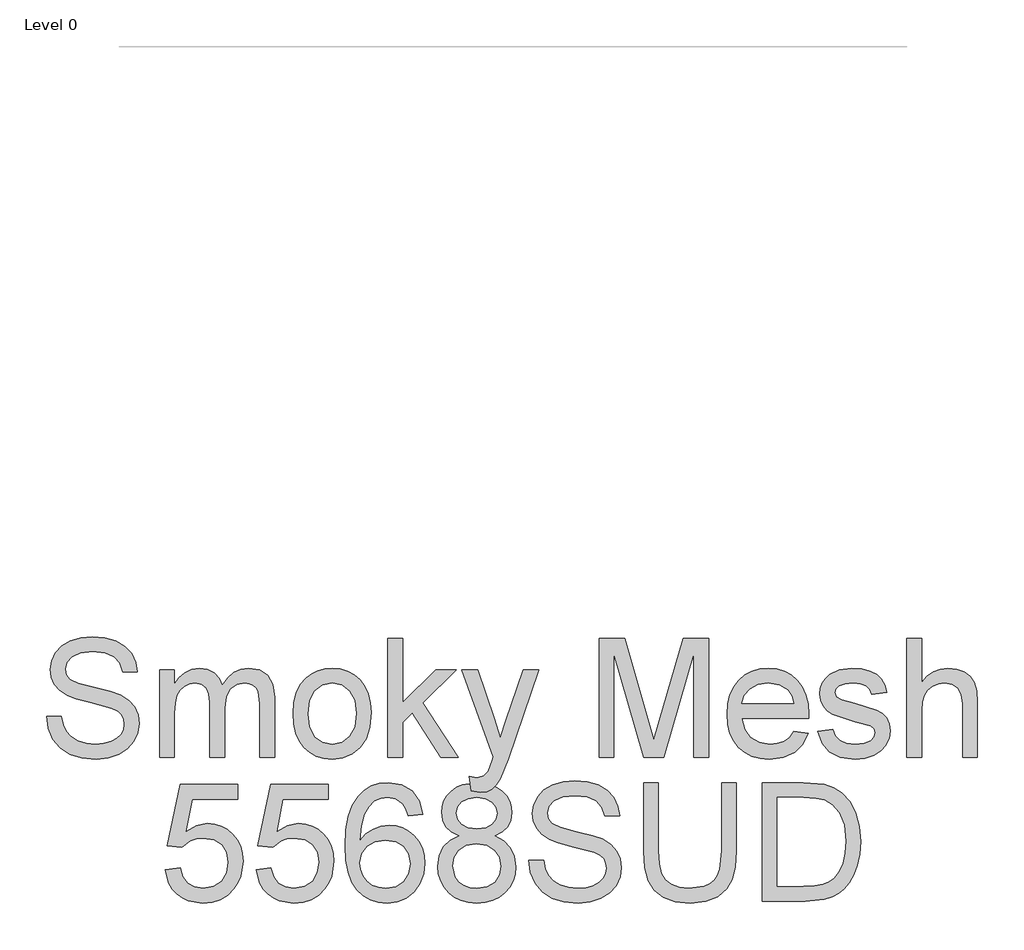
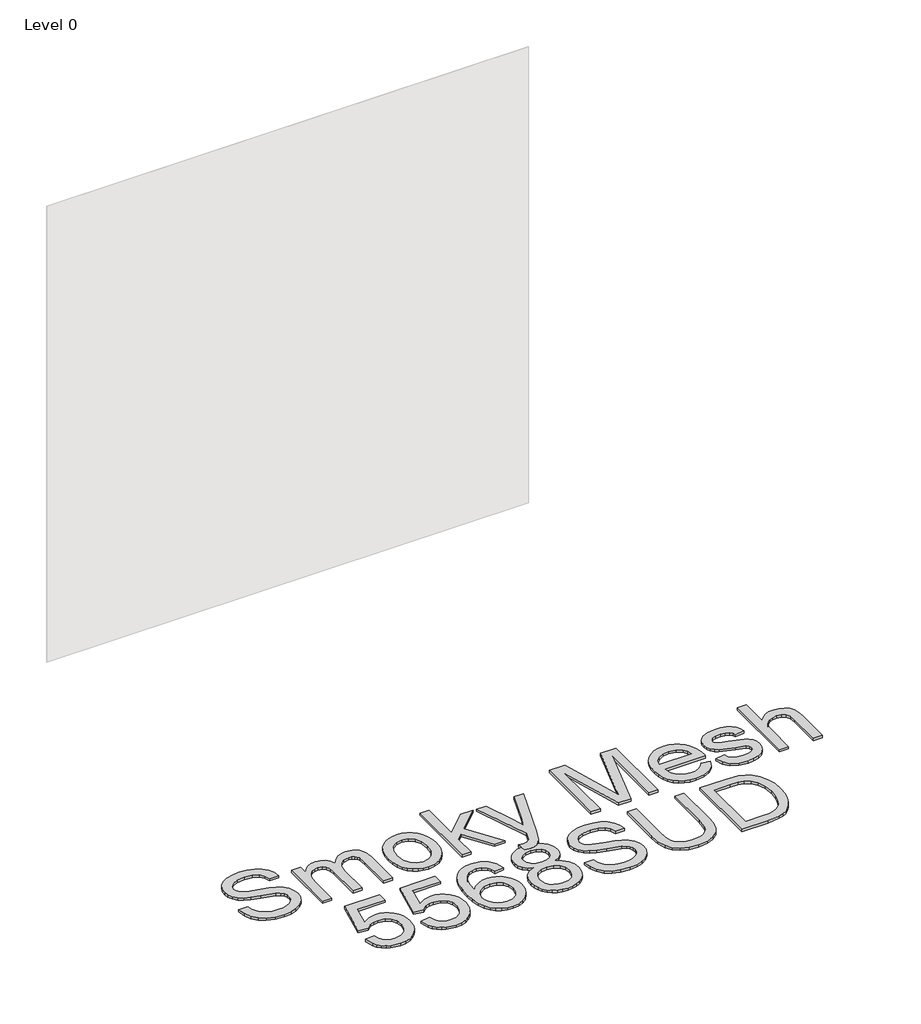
# One storey, part 19 of 29: 1 proxy.
"""IFC4 building model written with IfcOpenShell, lengths in millimetres."""

from ifc_helpers import new_model, si_unit, origin, origin_with_axes, place, context, project, spatial, polyline, outline, extrude, element, save

model = new_model("IFC4")

# Units and contexts
model_context = context("Model", 3, world=origin())
ifc_project = project(units=[si_unit("LENGTHUNIT", "METRE", prefix="MILLI")], contexts=[model_context])

# Site, building, storey
site = spatial("IfcSite", under=ifc_project)
building = spatial("IfcBuilding", under=site)
storey = spatial("IfcBuildingStorey", under=building, Name="Level 0", Elevation=0.0)

# Proxy
placement = place(None, origin())
element("IfcBuildingElementProxy", 1, Name="300mm Arial", ObjectType="300mm Arial", at=placement, inside=storey, context=model_context, shape_type="SweptSolid", body=[
    extrude(outline(polyline([(4365.0562248, -11909.2649241), (4402.7273411, -11909.2649241), (4407.0499546, -11930.1698185), (4414.867447, -11946.9728286), (4427.0627351, -11960.308551), (4444.5187358, -11970.8115819), (4465.8558915, -11977.6265959), (4489.6946448, -11979.8982672), (4510.6823126, -11978.1784189), (4529.0580183, -11973.0188739), (4543.948042, -11964.8518936), (4554.4786641, -11954.1097394), (4560.7418551, -11941.7764955), (4562.8295854, -11928.8362463), (4561.2660869, -11916.2270909), (4556.5755915, -11905.3285868), (4547.0474478, -11896.0303694), (4530.9710046, -11888.222074), (4476.1197992, -11873.837888), (4440.1133489, -11864.3189414), (4417.0747389, -11855.2598472), (4398.3219542, -11842.5863125), (4385.0322172, -11827.2272392), (4377.1135572, -11809.5137211), (4374.4740039, -11789.7768521), (4377.7389566, -11767.7131294), (4387.5338147, -11747.1393289), (4403.6010609, -11729.7017223), (4425.6831776, -11717.0465817), (4452.1890754, -11709.3486509), (4481.5276645, -11706.782674), (4513.3126689, -11709.4682126), (4541.1245477, -11717.5248283), (4563.9700196, -11730.7869742), (4580.8558032, -11749.0891034), (4591.5427752, -11771.2907818), (4595.7918122, -11796.2515752), (4558.1206959, -11796.2515752), (4551.2045144, -11773.7739853), (4536.7835402, -11757.5503893), (4514.250768, -11747.7279401), (4482.9991925, -11744.4537903), (4451.011853, -11747.6911519), (4429.067692, -11757.4032365), (4416.3757631, -11771.695452), (4412.1451202, -11788.6732061), (4415.1433585, -11803.1493626), (4424.1380732, -11814.7928278), (4445.4016526, -11825.2038882), (4485.6479428, -11835.8356779), (4527.1818201, -11845.9340387), (4552.3081604, -11854.7448125), (4573.7832718, -11868.4116286), (4588.7652661, -11885.2790181), (4597.5668428, -11905.1630399), (4600.5007017, -11927.8797531), (4597.1253844, -11951.102304), (4586.9994325, -11972.9452975), (4570.5367132, -11991.7440675), (4548.1510938, -12005.8339479), (4521.2313288, -12014.6355246), (4491.1661728, -12017.5693835), (4454.2584116, -12014.4055984), (4423.8805558, -12004.9142429), (4399.6831176, -11989.0585289), (4381.316609, -11966.8016682), (4369.5259911, -11939.6887651), (4365.0562248, -11909.2649241)])), origin_with_axes(), (0.0, 0.0, 1.0), 10.0),
    extrude(outline(polyline([(4652.2984867, -12012.860494), (4652.2984867, -11791.5426857), (4689.969603, -11791.5426857), (4689.969603, -11827.9630032), (4701.3003684, -11811.2335695), (4715.8684954, -11798.1277734), (4733.1773433, -11789.6572905), (4752.7302713, -11786.8337961), (4773.681151, -11789.7124728), (4790.474964, -11798.3485026), (4803.0197401, -11812.1716686), (4811.2235086, -11830.6117536), (4824.954704, -11811.4588972), (4840.61728, -11797.7782855), (4858.2112364, -11789.5699185), (4877.7365733, -11786.8337961), (4906.0542899, -11791.3863358), (4926.9959725, -11805.0439549), (4939.9362216, -11828.1745354), (4944.249638, -11861.1459592), (4944.249638, -12012.860494), (4906.5785217, -12012.860494), (4906.5785217, -11877.332767), (4903.0836428, -11845.8788564), (4898.1724181, -11837.2060383), (4890.4285021, -11830.3910244), (4880.4680971, -11825.9764404), (4868.9074054, -11824.5049125), (4848.4991517, -11828.2757029), (4831.8616885, -11839.5880743), (4820.7976375, -11859.2145787), (4817.1096205, -11887.9277684), (4817.1096205, -12012.860494), (4779.4385042, -12012.860494), (4779.4385042, -11873.1389122), (4777.2588034, -11851.8385447), (4770.7197009, -11836.6450183), (4759.2141915, -11827.5399389), (4742.1352699, -11824.5049125), (4727.6223252, -11826.5282634), (4714.2498146, -11832.5983163), (4703.2133548, -11842.5679184), (4695.7085621, -11856.2899168), (4691.4043427, -11875.3278101), (4689.969603, -11901.2450966), (4689.969603, -12012.860494), (4652.2984867, -12012.860494)])), origin_with_axes(), (0.0, 0.0, 1.0), 10.0),
    extrude(outline(polyline([(4991.3385334, -11902.2015898), (4993.37568, -11873.5389839), (4999.4871196, -11848.8403064), (5009.6728523, -11828.1055575), (5023.9328782, -11811.334737), (5038.289473, -11800.6155754), (5054.13599, -11792.9590314), (5071.472429, -11788.3651049), (5090.2987901, -11786.8337961), (5111.0818236, -11788.698498), (5129.8736957, -11794.2926036), (5146.6744066, -11803.6161129), (5161.4839562, -11816.669026), (5173.571179, -11833.0098843), (5182.2049096, -11852.1972296), (5187.3851479, -11874.2310619), (5189.111894, -11899.1113811), (5186.0584735, -11937.1687735), (5176.8982118, -11966.1394806), (5161.8978234, -11987.8353213), (5141.3240228, -12004.0681143), (5116.8874613, -12014.1940662), (5090.2987901, -12017.5693835), (5069.212254, -12015.7115794), (5050.2456379, -12010.1381672), (5033.3989418, -12000.8491468), (5018.6721657, -11987.8445183), (5006.7137015, -11971.3450108), (4998.1719415, -11951.5713536), (4993.0468854, -11928.5235466), (4991.3385334, -11902.2015898)]), holes=[polyline([(5029.0096497, -11902.1280134), (5033.3690514, -11936.2214773), (5046.4472563, -11960.5108861), (5066.128943, -11975.0514219), (5090.2987901, -11979.8982672), (5114.3582726, -11975.0238308), (5134.0031711, -11960.4005215), (5147.0813761, -11935.789216), (5151.4407777, -11900.950791), (5147.0537849, -11867.8506085), (5133.8928065, -11843.8922936), (5114.2203168, -11829.3517577), (5090.2987901, -11824.5049125), (5066.128943, -11829.3333636), (5046.4472563, -11843.8187172), (5033.3690514, -11868.0529436), (5029.0096497, -11902.1280134)])]), origin_with_axes(), (0.0, 0.0, 1.0), 10.0),
    extrude(outline(polyline([(5231.4918999, -12012.860494), (5231.4918999, -11711.4915635), (5269.1630162, -11711.4915635), (5269.1630162, -11873.4332178), (5353.6287223, -11791.5426857), (5405.7208128, -11791.5426857), (5320.2250371, -11874.4632874), (5410.4297023, -12012.860494), (5366.4310157, -12012.860494), (5293.2224987, -11900.6564855), (5269.1630162, -11923.9802039), (5269.1630162, -12012.860494), (5231.4918999, -12012.860494)])), origin_with_axes(), (0.0, 0.0, 1.0), 10.0),
    extrude(outline(polyline([(5443.3919291, -12097.6205057), (5438.6830395, -12061.3473409), (5457.8129033, -12064.6582789), (5475.6919683, -12060.5012124), (5486.6548517, -12048.9129295), (5496.9555476, -12021.1746271), (5499.8986035, -12012.0511536), (5419.8474814, -11791.5426857), (5459.5787369, -11791.5426857), (5502.0323191, -11914.4152721), (5516.8211753, -11963.5643066), (5531.6100315, -11920.1542312), (5575.2408362, -11791.5426857), (5614.677786, -11791.5426857), (5537.6432962, -12018.1579947), (5517.6305157, -12067.3070293), (5507.3850021, -12082.9971964), (5495.7783252, -12093.8681093), (5482.2954501, -12100.2140737), (5466.421342, -12102.3293952), (5443.3919291, -12097.6205057)])), origin_with_axes(), (0.0, 0.0, 1.0), 10.0),
    extrude(outline(polyline([(5768.3053072, -12012.860494), (5768.3053072, -11711.4915635), (5833.1261148, -11711.4915635), (5894.7831372, -11923.9066275), (5907.2175486, -11968.2731962), (5920.6820296, -11920.2278076), (5981.3089824, -11711.4915635), (6046.12979, -11711.4915635), (6046.12979, -12012.860494), (6008.4586737, -12012.860494), (6008.4586737, -11749.1626798), (5932.7485591, -12012.860494), (5881.6865381, -12012.860494), (5805.9764235, -11749.1626798), (5805.9764235, -12012.860494), (5768.3053072, -12012.860494)])), origin_with_axes(), (0.0, 0.0, 1.0), 10.0),
    extrude(outline(polyline([(6262.2972503, -11946.9360404), (6299.2326027, -11951.64493), (6285.9244715, -11979.4752029), (6264.6884833, -12000.2789297), (6236.0028847, -12013.2467701), (6200.3459224, -12017.5693835), (6176.9716201, -12015.7046817), (6156.1449006, -12010.1105761), (6137.865764, -12000.7870668), (6122.1342102, -11987.7341537), (6109.4836681, -11971.3151204), (6100.4475666, -11951.8932503), (6095.0259057, -11929.4685435), (6093.2186854, -11904.0409998), (6095.0442998, -11877.7512327), (6100.521143, -11854.5792656), (6109.649215, -11834.5250983), (6122.4285158, -11817.5887309), (6138.1186829, -11804.133447), (6155.9793537, -11794.5225298), (6176.0105284, -11788.7559796), (6198.2122068, -11786.8337961), (6219.6988146, -11788.751381), (6239.1298817, -11794.5041357), (6256.5054082, -11804.0920602), (6271.825394, -11817.5151545), (6284.3310826, -11834.4147337), (6293.2637173, -11854.4321128), (6298.6232981, -11877.5672917), (6300.409825, -11903.8202706), (6300.1890958, -11913.9738137), (6130.8898017, -11913.9738137), (6137.41051, -11942.1719686), (6152.5580512, -11962.902119), (6174.4194387, -11975.6492302), (6201.0816863, -11979.8982672), (6221.1312551, -11977.9300985), (6238.0170387, -11972.0255925), (6251.7390371, -11961.8168672), (6262.2972503, -11946.9360404)]), holes=[polyline([(6130.8898017, -11876.3026974), (6262.7387087, -11876.3026974), (6257.6435431, -11856.4002814), (6247.6555469, -11842.1632482), (6225.6929918, -11828.9194964), (6198.065054, -11824.5049125), (6172.6719993, -11828.0273826), (6151.6751344, -11838.5947929), (6137.0794162, -11855.0667092), (6130.8898017, -11876.3026974)])]), origin_with_axes(), (0.0, 0.0, 1.0), 10.0),
    extrude(outline(polyline([(6323.9542727, -11946.9360404), (6361.625389, -11942.2271509), (6367.5666833, -11958.3403823), (6379.0629956, -11970.1861825), (6396.1879025, -11977.470246), (6419.0149803, -11979.8982672), (6441.5661466, -11977.6725811), (6457.4218606, -11970.9955229), (6466.8028515, -11961.3202265), (6469.9298484, -11950.0998256), (6466.7844574, -11940.4981055), (6457.3482842, -11933.1772538), (6418.5735219, -11922.4350996), (6361.8461182, -11904.0042116), (6347.4895234, -11894.7427824), (6337.08766, -11882.4831149), (6330.7692867, -11868.0069584), (6328.6631623, -11852.0960621), (6330.3554195, -11837.5003439), (6335.432191, -11824.0266659), (6343.4336244, -11812.2084568), (6353.8998671, -11802.5791455), (6377.848985, -11791.4323211), (6410.2593888, -11786.8337961), (6434.7787238, -11788.6824032), (6456.0974854, -11794.2282242), (6473.2407864, -11802.9286334), (6485.2337394, -11814.2410048), (6493.1799905, -11829.0022698), (6498.1831857, -11848.0493601), (6460.5120693, -11852.7582497), (6455.7571946, -11840.9032524), (6446.3486125, -11831.972917), (6432.1943528, -11826.3719136), (6413.2024448, -11824.5049125), (6391.5709835, -11826.2891401), (6377.1500092, -11831.6418232), (6369.0382112, -11839.3673451), (6366.3342786, -11848.2700893), (6370.8224389, -11859.2329728), (6384.8755311, -11867.5471059), (6417.3227231, -11875.5669334), (6472.615387, -11893.2988455), (6487.2203022, -11901.7785255), (6498.2935503, -11913.3852025), (6505.2741111, -11928.1556646), (6507.6009647, -11946.1267001), (6504.8694409, -11964.7047408), (6496.6748695, -11982.1791356), (6483.3299501, -11997.1795239), (6465.1473825, -12008.3355454), (6443.1848274, -12015.260924), (6418.4999455, -12017.5693835), (6380.5161295, -12013.1180114), (6352.7962212, -11999.763895), (6334.2917568, -11977.654187), (6323.9542727, -11946.9360404)])), origin_with_axes(), (0.0, 0.0, 1.0), 10.0),
    extrude(outline(polyline([(6549.9809706, -12012.860494), (6549.9809706, -11711.4915635), (6587.6520869, -11711.4915635), (6587.6520869, -11822.2976205), (6601.4890484, -11806.7821973), (6617.0274642, -11795.6997522), (6634.2673342, -11789.0502852), (6653.2086584, -11786.8337961), (6675.9621598, -11789.2526203), (6695.5150879, -11796.5090926), (6710.9109494, -11808.0329961), (6721.1932511, -11823.2541137), (6726.9873926, -11844.1682051), (6728.918773, -11872.7710302), (6728.918773, -12012.860494), (6691.2476567, -12012.860494), (6691.2476567, -11876.6705794), (6688.2494185, -11853.0893435), (6679.2547037, -11836.9393239), (6664.7601531, -11827.6135153), (6645.2624073, -11824.5049125), (6629.342314, -11826.6018398), (6614.3971079, -11832.8926219), (6602.0178788, -11842.7702535), (6593.7957162, -11855.6277292), (6589.1879942, -11872.7158479), (6587.6520869, -11895.2854083), (6587.6520869, -12012.860494), (6549.9809706, -12012.860494)])), origin_with_axes(), (0.0, 0.0, 1.0), 10.0),
    extrude(outline(polyline([(4666.4251553, -12298.7338254), (4704.0962716, -12294.0249358), (4711.0124531, -12316.6404815), (4723.0789825, -12332.8364863), (4740.2406776, -12342.5761621), (4762.442356, -12345.8227207), (4789.4448945, -12341.3069693), (4809.6784042, -12327.7597148), (4822.3151507, -12306.7444558), (4826.5273996, -12279.8246908), (4822.5818652, -12254.4776213), (4810.745262, -12235.0902402), (4790.9256195, -12222.7845875), (4763.0309672, -12218.6827032), (4744.7564291, -12220.3197781), (4729.9583758, -12225.2310027), (4708.8051611, -12242.2271509), (4671.1340448, -12237.5182614), (4704.0962716, -12082.1249066), (4850.0718473, -12082.1249066), (4850.0718473, -12119.7960229), (4734.5569008, -12119.7960229), (4718.4436694, -12202.790201), (4745.3542373, -12186.4562404), (4773.5523923, -12181.0115869), (4791.8982075, -12182.6992456), (4808.7495022, -12187.7622215), (4824.1062762, -12196.2005148), (4837.9685296, -12208.0141254), (4849.4441486, -12222.4810848), (4857.6410193, -12238.8794248), (4862.5591417, -12257.2091452), (4864.1985159, -12277.470246), (4858.2940099, -12315.1413624), (4850.9133773, -12331.9351754), (4840.5804918, -12347.3678251), (4824.9271129, -12363.1729553), (4806.6617718, -12374.4623341), (4785.7844686, -12381.2359613), (4762.2952032, -12383.4938371), (4725.2954715, -12377.6904986), (4709.6168008, -12370.4363255), (4695.8189267, -12360.2804832), (4684.3387092, -12347.7288093), (4675.6130081, -12333.2871418), (4666.4251553, -12298.7338254)])), origin_with_axes(), (0.0, 0.0, 1.0), 10.0),
    extrude(outline(polyline([(4897.1607426, -12298.7338254), (4934.8318589, -12294.0249358), (4941.7480405, -12316.6404815), (4953.8145699, -12332.8364863), (4970.976265, -12342.5761621), (4993.1779434, -12345.8227207), (5020.1804818, -12341.3069693), (5040.4139916, -12327.7597148), (5053.0507381, -12306.7444558), (5057.2629869, -12279.8246908), (5053.3174525, -12254.4776213), (5041.4808494, -12235.0902402), (5021.6612069, -12222.7845875), (4993.7665546, -12218.6827032), (4975.4920165, -12220.3197781), (4960.6939632, -12225.2310027), (4939.5407485, -12242.2271509), (4901.8696322, -12237.5182614), (4934.8318589, -12082.1249066), (5080.8074346, -12082.1249066), (5080.8074346, -12119.7960229), (4965.2924881, -12119.7960229), (4949.1792568, -12202.790201), (4976.0898247, -12186.4562404), (5004.2879796, -12181.0115869), (5022.6337949, -12182.6992456), (5039.4850895, -12187.7622215), (5054.8418636, -12196.2005148), (5068.704117, -12208.0141254), (5080.179736, -12222.4810848), (5088.3766067, -12238.8794248), (5093.2947291, -12257.2091452), (5094.9341033, -12277.470246), (5089.0295972, -12315.1413624), (5081.6489647, -12331.9351754), (5071.3160792, -12347.3678251), (5055.6627003, -12363.1729553), (5037.3973592, -12374.4623341), (5016.520056, -12381.2359613), (4993.0307906, -12383.4938371), (4956.0310589, -12377.6904986), (4940.3523881, -12370.4363255), (4926.5545141, -12360.2804832), (4915.0742965, -12347.7288093), (4906.3485955, -12333.2871418), (4897.1607426, -12298.7338254)])), origin_with_axes(), (0.0, 0.0, 1.0), 10.0),
    extrude(outline(polyline([(5320.9608011, -12157.4671392), (5283.2896848, -12162.1760288), (5277.2196319, -12143.5060175), (5269.0158634, -12130.7589064), (5251.9277447, -12119.0050766), (5231.2711707, -12115.0871334), (5213.7599877, -12117.3680017), (5197.2788743, -12124.2106069), (5183.1246145, -12138.622384), (5171.5639228, -12158.4604206), (5163.7556275, -12186.5206198), (5160.8585568, -12225.5988847), (5175.9693097, -12207.9681401), (5194.078301, -12195.5429257), (5214.1738549, -12188.1760888), (5235.2442962, -12185.7204764), (5253.3440904, -12187.3989381), (5270.045933, -12192.4343229), (5285.349824, -12200.8266309), (5299.2557634, -12212.5758621), (5310.8118565, -12226.9830407), (5319.0662088, -12243.349191), (5324.0188202, -12261.6743129), (5325.6696906, -12281.9584064), (5322.5610878, -12308.9333537), (5313.2352792, -12333.9401323), (5298.4648171, -12355.1485293), (5279.0222536, -12370.7283318), (5255.7905056, -12380.3024607), (5229.6524899, -12383.4938371), (5207.1955933, -12381.3785156), (5186.9137991, -12375.0325512), (5168.8071071, -12364.4559438), (5152.8755175, -12349.6486935), (5139.8869838, -12329.9854009), (5130.6094597, -12304.8406665), (5125.0429453, -12274.2144904), (5123.1874405, -12238.1068726), (5125.2475797, -12197.6260575), (5131.4279972, -12163.0773396), (5141.728693, -12134.4607189), (5156.1496672, -12111.7761954), (5171.7800535, -12096.7436174), (5189.9028403, -12086.0060617), (5210.5180276, -12079.5635282), (5233.6256154, -12077.4160171), (5266.6798127, -12082.7319119), (5293.1489223, -12098.6795964), (5311.6901748, -12124.0082718), (5320.9608011, -12157.4671392)]), holes=[polyline([(5160.8585568, -12281.3697952), (5163.0382576, -12298.0624407), (5169.5773601, -12314.0009282), (5179.7309031, -12327.7045325), (5192.7539258, -12337.6925287), (5208.471684, -12343.7901727), (5226.7094339, -12345.8227207), (5251.5690597, -12341.6104719), (5271.1127907, -12328.9737254), (5283.7771284, -12309.1080976), (5287.9985743, -12283.2092052), (5283.8323107, -12258.3495793), (5271.3335199, -12239.3944595), (5251.4586951, -12227.3923095), (5225.1643295, -12223.3915928), (5200.3414919, -12227.3923095), (5179.5837503, -12239.3944595), (5165.5398552, -12257.8897269), (5160.8585568, -12281.3697952)])]), origin_with_axes(), (0.0, 0.0, 1.0), 10.0),
    extrude(outline(polyline([(5413.5199111, -12212.7965913), (5393.3507807, -12202.8637774), (5379.1965209, -12189.3992964), (5370.8364026, -12172.6790597), (5368.0496965, -12152.9789789), (5369.5672097, -12137.6153071), (5374.1197494, -12123.5300252), (5381.7073155, -12110.7231332), (5392.3299082, -12099.1946312), (5405.477091, -12089.6664875), (5420.6384277, -12082.8606706), (5457.0035629, -12077.4160171), (5493.5894273, -12082.9894293), (5508.9163109, -12089.9561946), (5522.2658288, -12099.709666), (5533.0815595, -12111.4634957), (5540.8070814, -12124.4313361), (5545.4423945, -12138.613187), (5546.9874989, -12154.0090485), (5544.237581, -12173.0745329), (5535.9878273, -12189.509661), (5522.1462672, -12202.8913686), (5502.6209303, -12212.7965913), (5525.8066931, -12224.7435591), (5542.6832796, -12242.3375155), (5552.9747784, -12264.732332), (5556.405278, -12291.0818799), (5554.7038238, -12309.8714528), (5549.5994611, -12327.0975272), (5541.09219, -12342.7601031), (5529.1820104, -12356.8591806), (5514.4943217, -12368.5118428), (5497.6545234, -12376.8351729), (5478.6626154, -12381.829171), (5457.5185977, -12383.4938371), (5436.37458, -12381.8222732), (5417.382672, -12376.8075818), (5400.5428737, -12368.4497627), (5385.855185, -12356.748816), (5373.9450054, -12342.5508703), (5365.4377343, -12326.702054), (5360.3333716, -12309.2023674), (5358.6319174, -12290.0518103), (5362.2003727, -12262.6813898), (5372.9057388, -12240.1670117), (5390.1961926, -12223.2812282), (5413.5199111, -12212.7965913)]), holes=[polyline([(5405.7208128, -12154.0826249), (5409.0593419, -12170.52695), (5419.0749292, -12183.6603373), (5435.4732691, -12192.268776), (5457.9600561, -12195.1382555), (5479.9226112, -12192.2871701), (5496.0726308, -12183.7339137), (5506.0054447, -12171.0419848), (5509.3163826, -12155.774882), (5505.8950801, -12139.9283651), (5495.6311724, -12126.822569), (5479.2604236, -12118.0209923), (5457.5185977, -12115.0871334), (5435.638816, -12117.9566129), (5419.2956584, -12126.5650516), (5409.1145242, -12139.1834041), (5405.7208128, -12154.0826249)]), polyline([(5396.3030337, -12288.7274351), (5402.5938158, -12317.0911369), (5411.3034221, -12329.2588339), (5424.8506765, -12338.317928), (5441.0742725, -12343.9465226), (5457.8129033, -12345.8227207), (5483.4542784, -12341.8771864), (5502.6945067, -12330.0405832), (5514.7242479, -12312.1155329), (5518.7341617, -12289.9046575), (5514.5954892, -12267.316703), (5502.1794719, -12248.9961796), (5482.4977852, -12236.8560738), (5456.5621045, -12232.8093718), (5431.2794144, -12236.8008915), (5412.2323241, -12248.7754504), (5400.2853563, -12266.7464859), (5396.3030337, -12288.7274351)])]), origin_with_axes(), (0.0, 0.0, 1.0), 10.0),
    extrude(outline(polyline([(5589.3675048, -12275.1893777), (5627.0386211, -12275.1893777), (5631.3612345, -12296.0942721), (5639.1787269, -12312.8972822), (5651.3740151, -12326.2330045), (5668.8300157, -12336.7360355), (5690.1671714, -12343.5510494), (5714.0059247, -12345.8227207), (5734.9935926, -12344.1028724), (5753.3692982, -12338.9433274), (5768.259322, -12330.7763471), (5778.7899441, -12320.0341929), (5785.0531351, -12307.700949), (5787.1408654, -12294.7606998), (5785.5773669, -12282.1515444), (5780.8868715, -12271.2530403), (5771.3587278, -12261.9548229), (5755.2822846, -12254.1465276), (5700.4310791, -12239.7623415), (5664.4246288, -12230.2433949), (5641.3860189, -12221.1843008), (5622.6332342, -12208.510766), (5609.3434971, -12193.1516928), (5601.4248372, -12175.4381747), (5598.7852838, -12155.7013056), (5602.0502366, -12133.637583), (5611.8450947, -12113.0637824), (5627.9123408, -12095.6261758), (5649.9944576, -12082.9710352), (5676.5003553, -12075.2731044), (5705.8389444, -12072.7071275), (5737.6239488, -12075.3926661), (5765.4358277, -12083.4492818), (5788.2812996, -12096.7114277), (5805.1670831, -12115.013557), (5815.8540551, -12137.2152354), (5820.1030921, -12162.1760288), (5782.4319758, -12162.1760288), (5775.5157943, -12139.6984389), (5761.0948201, -12123.4748429), (5738.5620479, -12113.6523936), (5707.3104724, -12110.3782438), (5675.3231329, -12113.6156054), (5653.3789719, -12123.3276901), (5640.6870431, -12137.6199056), (5636.4564002, -12154.5976597), (5639.4546384, -12169.0738162), (5648.4493532, -12180.7172813), (5669.7129325, -12191.1283418), (5709.9592228, -12201.7601314), (5751.4931, -12211.8584922), (5776.6194403, -12220.669266), (5798.0945518, -12234.3360821), (5813.076546, -12251.2034716), (5821.8781228, -12271.0874934), (5824.8119817, -12293.8042066), (5821.4366644, -12317.0267576), (5811.3107125, -12338.869751), (5794.8479932, -12357.668521), (5772.4623738, -12371.7584014), (5745.5426088, -12380.5599781), (5715.4774527, -12383.4938371), (5678.5696915, -12380.3300519), (5648.1918358, -12370.8386964), (5623.9943976, -12354.9829824), (5605.627889, -12332.7261217), (5593.837271, -12305.6132187), (5589.3675048, -12275.1893777)])), origin_with_axes(), (0.0, 0.0, 1.0), 10.0),
    extrude(outline(polyline([(6079.0920167, -12077.4160171), (6116.7631331, -12077.4160171), (6116.7631331, -12251.277048), (6114.2063532, -12291.9923878), (6106.5360136, -12323.3451308), (6092.2070099, -12347.533372), (6069.6742377, -12366.7552063), (6038.8825147, -12379.3091794), (5999.7766586, -12383.4938371), (5961.5261281, -12379.8518053), (5930.9459373, -12368.92571), (5908.026889, -12351.0926303), (5892.7597862, -12326.7296452), (5884.1789387, -12294.052527), (5881.3186561, -12251.277048), (5881.3186561, -12077.4160171), (5918.9897724, -12077.4160171), (5918.9897724, -12249.9526728), (5920.8475765, -12283.8070134), (5926.4209887, -12307.3790523), (5936.5193495, -12323.7038158), (5951.9519992, -12335.8163305), (5972.0751444, -12343.3211232), (5996.2449914, -12345.8227207), (6034.5599012, -12340.8747079), (6048.9027005, -12334.6896919), (6060.0357294, -12326.0306694), (6068.3728551, -12313.8537754), (6074.3279449, -12297.1151446), (6079.0920167, -12249.9526728), (6079.0920167, -12077.4160171)])), origin_with_axes(), (0.0, 0.0, 1.0), 10.0),
    extrude(outline(polyline([(6182.6875866, -12378.7849475), (6182.6875866, -12077.4160171), (6286.6510384, -12077.4160171), (6340.4353861, -12081.7570246), (6364.4580804, -12090.12634), (6384.7283783, -12103.3149095), (6405.5688934, -12126.270746), (6420.4129319, -12154.8183889), (6429.2972821, -12188.406015), (6432.2587321, -12226.4818015), (6430.2537752, -12258.8278259), (6424.2389046, -12287.2926953), (6415.0786429, -12311.5269217), (6403.6375129, -12331.1810173), (6390.4673375, -12346.6964405), (6376.1199397, -12358.5146496), (6359.6480233, -12367.2794381), (6340.1042923, -12373.6345996), (6291.6542336, -12378.7849475), (6182.6875866, -12378.7849475)]), holes=[polyline([(6220.3587029, -12341.1138312), (6287.0189204, -12341.1138312), (6314.591676, -12339.7526678), (6335.5057674, -12335.6691777), (6351.287905, -12329.1024841), (6363.464799, -12320.2917103), (6376.552201, -12303.9853408), (6386.3838473, -12282.8781114), (6392.5366737, -12256.8780514), (6394.5876158, -12225.8931903), (6390.568505, -12184.8375597), (6378.5111726, -12154.5240833), (6360.696487, -12133.7019623), (6339.4053165, -12121.1203981), (6317.737067, -12116.5954496), (6285.9888508, -12115.0871334), (6220.3587029, -12115.0871334), (6220.3587029, -12341.1138312)])]), origin_with_axes(), (0.0, 0.0, 1.0), 10.0),
])

save(model, "model.ifc")
